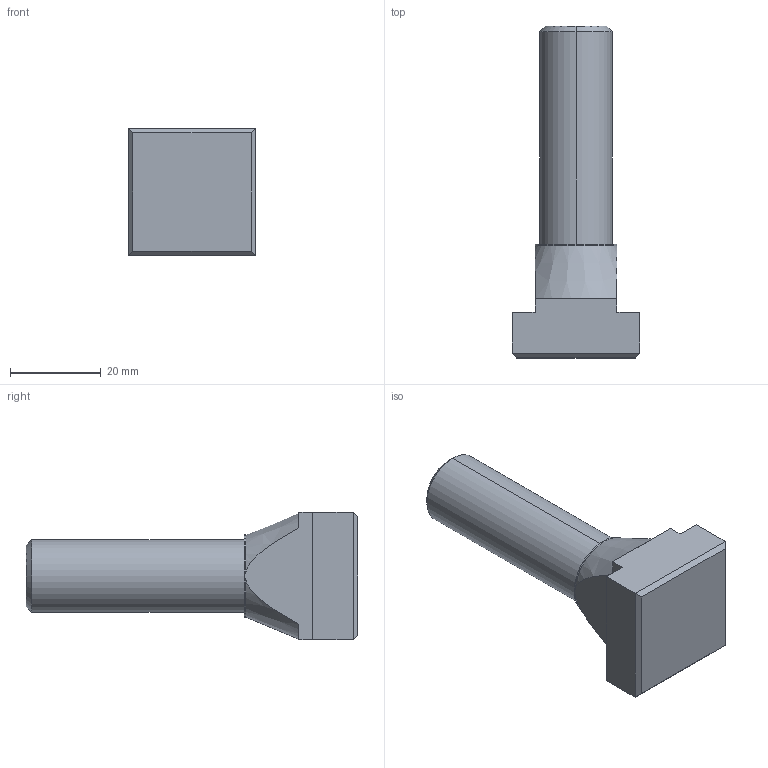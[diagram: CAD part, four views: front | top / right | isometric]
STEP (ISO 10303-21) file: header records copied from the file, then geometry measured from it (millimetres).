
FILE_DESCRIPTION (( 'STEP AP203' ), '1' );
FILE_NAME ('Wiberger-din787_18-m16x63.step', '2016-07-01T13:16:45', ( 'Magnus' ), ( 'Microsoft' ), 'SwSTEP 2.0', 'SolidWorks 2016', '' );
FILE_SCHEMA (( 'CONFIG_CONTROL_DESIGN' ));
Length unit declared in the file: millimetre
Products named in the file (1): Wiberger-din787_18-m16x63
Bounding box: 28 x 73 x 28 mm (x, y, z)
Volume: 23236.5 mm3; surface area: 5936.5 mm2
Topology: 1 solids, 1 shells, 27 faces, 66 edges, 42 vertices
Faces by surface type: plane 17, cone 5, cylinder 5
Entity records: 929 total; most frequent: CARTESIAN_POINT 216, ORIENTED_EDGE 132, DIRECTION 130, EDGE_CURVE 66, AXIS2_PLACEMENT_3D 44, LINE 42, VECTOR 42, VERTEX_POINT 42
